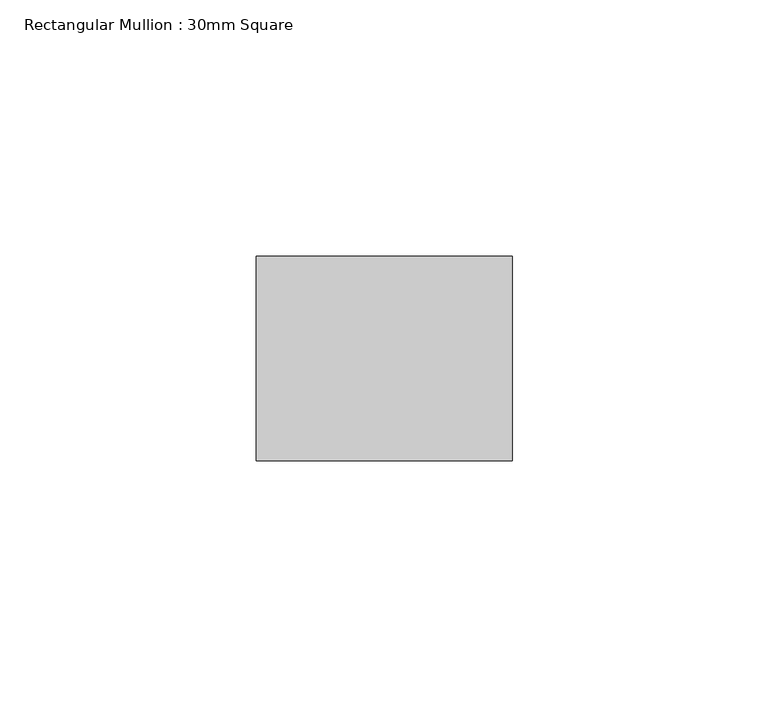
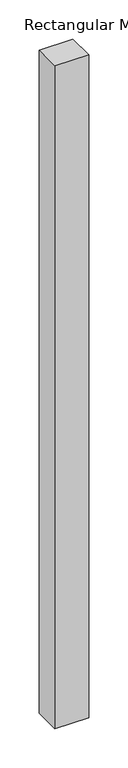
"""IFC4 building model written with IfcOpenShell, lengths in millimetres: member geometry, Rectangular Mullion : 30mm Square."""

import ifcopenshell
import ifcopenshell.guid

model = None  # the IFC model being written
_history = None  # IfcOwnerHistory: only IFC2X3 demands one
_inside = {}  # id of a spatial element -> (the spatial element, [elements in it])
_under = {}  # id of a project, library or spatial element -> (it, [spatial elements below it])
_declared = {}  # id of a project -> (the project, [libraries it declares])
_typed = {}  # id of a type object -> (the type object, [elements of that type])
_made_of = {}  # id of a material, layer set ... -> (it, [elements and type objects made of it])


def new_model(schema):
    """Start an empty IFC model of exactly this schema.

    Asked for "IFC4X3", IfcOpenShell would pick the latest addendum, in which some entities
    have other attributes; the version numbers below select the first issue.
    IFC2X3 requires an IfcOwnerHistory on every rooted entity: one is made here for all.
    """
    global model, _history
    if schema == "IFC4X3":
        model = ifcopenshell.file(schema_version=(4, 3, 0, 0))
    else:
        model = ifcopenshell.file(schema=schema)
    _inside.clear()
    _under.clear()
    _declared.clear()
    _typed.clear()
    _made_of.clear()
    _history = None
    if model.schema == "IFC2X3":
        org = make("IfcOrganization", Name="unknown")
        user = make(
            "IfcPersonAndOrganization",
            ThePerson=make("IfcPerson", FamilyName="unknown"),
            TheOrganization=org,
        )
        app = make(
            "IfcApplication",
            ApplicationDeveloper=org,
            Version="unknown",
            ApplicationFullName="unknown",
            ApplicationIdentifier="unknown",
        )
        _history = make(
            "IfcOwnerHistory",
            OwningUser=user,
            OwningApplication=app,
            ChangeAction="ADDED",
            CreationDate=0,
        )
    return model


def make(cls, **values):
    """One entity of the class cls with the attributes given. An attribute that is None is left unset."""
    return model.create_entity(
        cls, **{name: value for name, value in values.items() if value is not None}
    )


def rooted(cls, **values):
    """An entity with a GlobalId (a new one), such as an element, a storey or a relation."""
    return make(cls, GlobalId=ifcopenshell.guid.new(), OwnerHistory=_history, **values)


def si_unit(unit_type, name, prefix=None):
    """IfcSIUnit, for example si_unit("LENGTHUNIT", "METRE", prefix="MILLI")."""
    return make("IfcSIUnit", UnitType=unit_type, Prefix=prefix, Name=name)


def assignment(units):
    """IfcUnitAssignment: the units of a project."""
    return None if units is None else make("IfcUnitAssignment", Units=units)


def point(xyz):
    """IfcCartesianPoint."""
    return None if xyz is None else make("IfcCartesianPoint", Coordinates=xyz)


def direction(xyz):
    """IfcDirection."""
    return None if xyz is None else make("IfcDirection", DirectionRatios=xyz)


def frame(location, z_axis=None, x_axis=None):
    """IfcAxis2Placement3D, a coordinate frame: its origin and axes. An axis left out is left unset."""
    return make(
        "IfcAxis2Placement3D",
        Location=point(location),
        Axis=direction(z_axis),
        RefDirection=direction(x_axis),
    )


def origin():
    """The frame at (0, 0, 0) with its axes left unset."""
    return frame((0.0, 0.0, 0.0))


def place(relative_to, where):
    """IfcLocalPlacement: puts the frame where relative to a parent placement (None: the world)."""
    return make(
        "IfcLocalPlacement", PlacementRelTo=relative_to, RelativePlacement=where
    )


def context(
    kind, dimensions, precision=None, world=None, true_north=None, identifier=None
):
    """IfcGeometricRepresentationContext, for example the 3D "Model" context."""
    return make(
        "IfcGeometricRepresentationContext",
        ContextIdentifier=identifier,
        ContextType=kind,
        CoordinateSpaceDimension=dimensions,
        Precision=precision,
        WorldCoordinateSystem=world,
        TrueNorth=true_north,
    )


def project(units=None, contexts=None):
    """IfcProject with its units and contexts."""
    return rooted(
        "IfcProject",
        Name="project",
        RepresentationContexts=contexts,
        UnitsInContext=assignment(units),
    )


def spatial(cls, under=None, at=None, **own):
    """A site, building, storey or space (cls), placed at a placement, below another one or the project."""
    s = rooted(cls, ObjectPlacement=at, **own)
    if under is not None:
        _under.setdefault(under.id(), (under, []))[1].append(s)
    return s


def polyline(points):
    """IfcPolyline through the points."""
    return make("IfcPolyline", Points=[point(p) for p in points])


def outline(outer, holes=None, kind="AREA"):
    """IfcArbitraryClosedProfileDef: a profile drawn as a closed curve; with holes, ...WithVoids."""
    if holes is None:
        return make("IfcArbitraryClosedProfileDef", ProfileType=kind, OuterCurve=outer)
    return make(
        "IfcArbitraryProfileDefWithVoids",
        ProfileType=kind,
        OuterCurve=outer,
        InnerCurves=holes,
    )


def extrude(swept, where, along, depth):
    """IfcExtrudedAreaSolid: the profile swept, set in the frame where, extruded along a direction by depth."""
    return make(
        "IfcExtrudedAreaSolid",
        SweptArea=swept,
        Position=where,
        ExtrudedDirection=direction(along),
        Depth=depth,
    )


def shape(context_of_items, identifier, shape_type, items):
    """IfcShapeRepresentation: the items that make up one representation, for example the "Body"."""
    return make(
        "IfcShapeRepresentation",
        ContextOfItems=context_of_items,
        RepresentationIdentifier=identifier,
        RepresentationType=shape_type,
        Items=items,
    )


def source(mapping_origin, context_of_items, identifier, shape_type, items):
    """IfcRepresentationMap: a shape defined once, which mapped items show again and again."""
    return make(
        "IfcRepresentationMap",
        MappingOrigin=mapping_origin,
        MappedRepresentation=shape(context_of_items, identifier, shape_type, items),
    )


def transform(
    local_origin,
    x_axis=None,
    y_axis=None,
    z_axis=None,
    scale=None,
    scale2=None,
    scale3=None,
    uniform=True,
):
    """IfcCartesianTransformationOperator3D, or its non-uniform kind. x_axis, y_axis, z_axis: its Axis1, 2, 3."""
    if uniform:
        return make(
            "IfcCartesianTransformationOperator3D",
            Axis1=direction(x_axis),
            Axis2=direction(y_axis),
            LocalOrigin=point(local_origin),
            Scale=scale,
            Axis3=direction(z_axis),
        )
    return make(
        "IfcCartesianTransformationOperator3DnonUniform",
        Axis1=direction(x_axis),
        Axis2=direction(y_axis),
        LocalOrigin=point(local_origin),
        Scale=scale,
        Axis3=direction(z_axis),
        Scale2=scale2,
        Scale3=scale3,
    )


def mapped(mapping_source, mapping_target):
    """IfcMappedItem: shows the shape of a source again, moved by a transform."""
    return make(
        "IfcMappedItem", MappingSource=mapping_source, MappingTarget=mapping_target
    )


def made_of(thing, what):
    """Note that an element or type object is made of a material, layer set ...; save() writes the relation."""
    if what is not None:
        _made_of.setdefault(what.id(), (what, []))[1].append(thing)
    return thing


def element(
    cls,
    number,
    at=None,
    inside=None,
    cuts=None,
    type_object=None,
    material=None,
    context=None,
    identifier="Body",
    shape_type=None,
    held_by="IfcProductDefinitionShape",
    body=None,
    shapes=None,
    **own,
):
    """One element of the class cls, such as IfcWall. Its Tag is "e" and its number.

    at: its placement. inside: the storey or other place that contains it. cuts: it is an
    opening in that element (IfcRelVoidsElement). A single representation is given by context,
    identifier, shape_type and body (its items); several are given by shapes. held_by: the class
    of the entity that holds the representations. save() writes the other relations.
    """
    e = rooted(cls, Tag="e%d" % number, ObjectPlacement=at, **own)
    if body is not None:
        shapes = [shape(context, identifier, shape_type, body)]
    if shapes is not None:
        e.Representation = make(held_by, Representations=shapes)
    if inside is not None:
        _inside.setdefault(inside.id(), (inside, []))[1].append(e)
    if cuts is not None:
        rooted(
            "IfcRelVoidsElement", RelatingBuildingElement=cuts, RelatedOpeningElement=e
        )
    if type_object is not None:
        _typed.setdefault(type_object.id(), (type_object, []))[1].append(e)
    return made_of(e, material)


def aggregate(whole, parts):
    """IfcRelAggregates: a whole, such as a stair, and the parts it consists of."""
    return rooted("IfcRelAggregates", RelatingObject=whole, RelatedObjects=parts)


def save(model, path):
    """Write the relations noted so far, then the file.

    IfcRelAggregates (storeys below a building ...), IfcRelContainedInSpatialStructure (elements
    in a storey), IfcRelDefinesByType, IfcRelAssociatesMaterial and IfcRelDeclares: one each for
    every whole, place, type object, material and project.
    """
    for whole, parts in _under.values():
        aggregate(whole, parts)
    for where, things in _inside.values():
        rooted(
            "IfcRelContainedInSpatialStructure",
            RelatedElements=things,
            RelatingStructure=where,
        )
    for kind, things in _typed.values():
        rooted("IfcRelDefinesByType", RelatedObjects=things, RelatingType=kind)
    for what, things in _made_of.values():
        rooted("IfcRelAssociatesMaterial", RelatedObjects=things, RelatingMaterial=what)
    for by, libraries in _declared.values():
        rooted("IfcRelDeclares", RelatingContext=by, RelatedDefinitions=libraries)
    model.write(path)


def rectangular_mullion_30mm_square_0d78bde2(model_context):
    return source(origin(), model_context, "Body", "SweptSolid", [
        extrude(outline(polyline([(25.0, 20.0), (25.0, -20.0), (-25.0, -20.0), (-25.0, 20.0), (25.0, 20.0)])), frame((0.0, 0.0, -1035.0), z_axis=(0.0, 0.0, 1.0), x_axis=(1.0, 0.0, 0.0)), (0.0, 0.0, 1.0), 1035.0),
    ])


if __name__ == "__main__":
    model = new_model("IFC4")
    model_context = context("Model", 3, world=origin())
    ifc_project = project(units=[si_unit("LENGTHUNIT", "METRE", prefix="MILLI")], contexts=[model_context])
    site = spatial("IfcSite", under=ifc_project)
    building = spatial("IfcBuilding", under=site)
    placement = place(None, origin())
    rectangular_mullion_30mm_square_shape = rectangular_mullion_30mm_square_0d78bde2(model_context)
    element("IfcMember", 1, ObjectType="Rectangular Mullion : 30mm Square", at=placement, inside=building, context=model_context, shape_type="MappedRepresentation", body=[
        mapped(rectangular_mullion_30mm_square_shape, transform((0.0, 0.0, 0.0), x_axis=(1.0, 0.0, 0.0), y_axis=(0.0, 1.0, 0.0), z_axis=(0.0, 0.0, 1.0))),
    ])
    save(model, "model.ifc")
